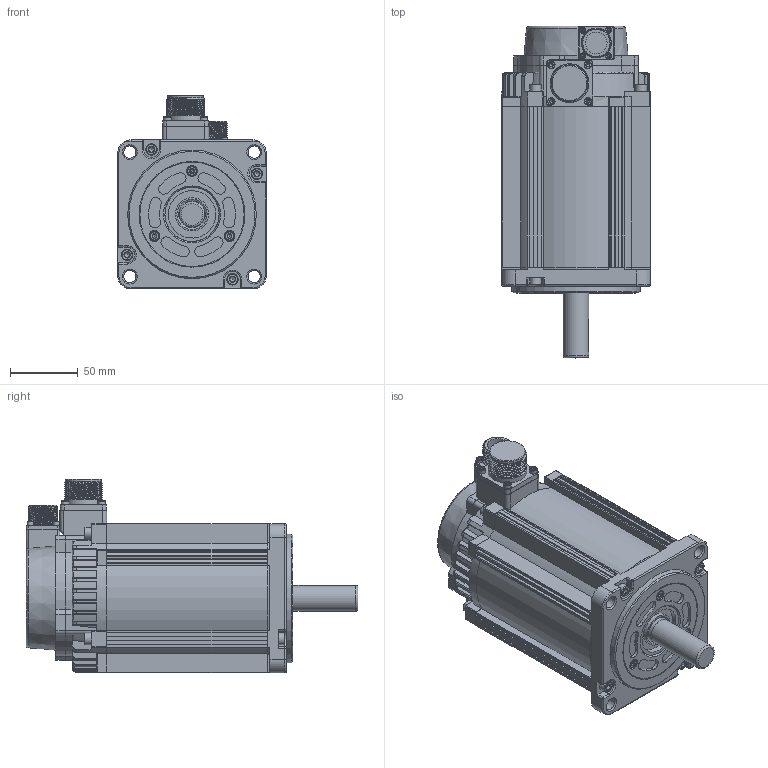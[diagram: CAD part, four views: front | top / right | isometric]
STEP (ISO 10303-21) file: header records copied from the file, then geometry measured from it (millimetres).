
FILE_DESCRIPTION(/* description */ (''),/* implementation_level */ '2;1');
FILE_NAME(/* name */ '110SY-M06020S1.stp',/* time_stamp */ '2023-12-28T16:40:55+08:00',/* author */ (''),/* organization */ (''),/* preprocessor_version */ 'ST-DEVELOPER v18.1',/* originating_system */ 'SIEMENS PLM Software NX 2000',/* authorisation */ '');
FILE_SCHEMA (('AUTOMOTIVE_DESIGN { 1 0 10303 214 3 1 1 1 }'));
Length unit declared in the file: millimetre
Products named in the file (1): 110S1电机外形图(02030) 
Bounding box: 110 x 245 x 143 mm (x, y, z)
Volume: 1836116.9 mm3; surface area: 232412.2 mm2
Topology: 28 solids, 28 shells, 1331 faces, 3145 edges, 1893 vertices
Faces by surface type: plane 598, cylinder 366, cone 210, torus 98, bspline 41, sphere 18
Full cylindrical faces by diameter (mm): 1 x4, 2.3 x4, 2.38 x4, 2.5 x6, 2.874 x4, 3 x4, 3.3 x3, 3.838 x3, 4.2 x4, 4.5 x7, 4.826 x8, 5.5 x12, 7 x3, 8 x3, 8.5 x8, 9 x4, 16 x1, 19 x1, 19.6 x1, 20 x1, 22.288 x1, 24.616 x1, 25 x1, 26 x1, 26.6 x1, 28.5 x8, 35 x1, 40 x2, 77 x2, 95 x1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
Entity records: 43083 total; most frequent: CARTESIAN_POINT 13811, DIRECTION 6138, ORIENTED_EDGE 5690, EDGE_CURVE 2845, AXIS2_PLACEMENT_3D 2408, VERTEX_POINT 1850, EDGE_LOOP 1619, ADVANCED_FACE 1322
